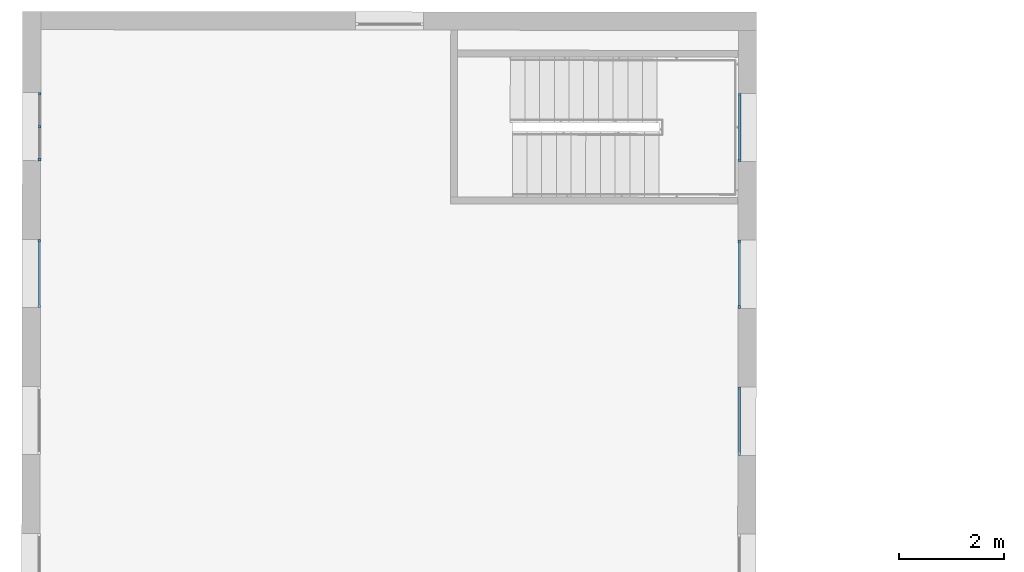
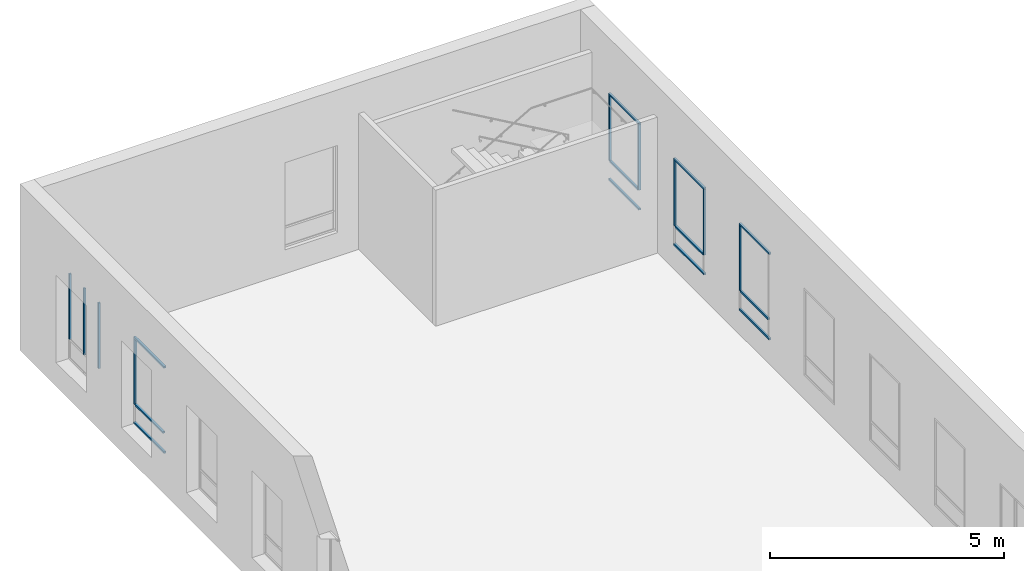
# One storey, part 6 of 35: 21 members, 5 elements without a shape of their own.
"""IFC2X3 building model written with IfcOpenShell, lengths in metres."""

from ifc_helpers import new_model, entity, si_unit, converted_unit, derived_unit, direction, frame, frame_2d, origin, origin_2d_with_axis, place, context, subcontext, project, spatial, rectangle, extrude, source, transform, mapped, material, type_object, type_shapes, element, aggregate, save


model = new_model("IFC2X3")

# Units and contexts
model_context = context("Model", 3, precision=1e-05, world=origin(), true_north=direction((6.123233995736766e-17, 1.0)))
body_context = subcontext(model_context, "Body", "Model", "MODEL_VIEW")
ifc_project = project(units=[si_unit("LENGTHUNIT", "METRE"), si_unit("AREAUNIT", "SQUARE_METRE"), converted_unit("PLANEANGLEUNIT", "DEGREE", entity("IfcPlaneAngleMeasure", 0.017453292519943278), si_unit("PLANEANGLEUNIT", "RADIAN"), dimensions=[0, 0, 0, 0, 0, 0, 0]), derived_unit("THERMALTRANSMITTANCEUNIT", [(si_unit("MASSUNIT", "GRAM", prefix="KILO"), 1), (si_unit("THERMODYNAMICTEMPERATUREUNIT", "KELVIN"), -1), (si_unit("TIMEUNIT", "SECOND"), -3)])], contexts=[model_context])

# Site, building, storey
site_placement = place(None, frame((1253.6752467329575, 2072.143113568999, 91.49999999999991), z_axis=(0.0, 0.0, 1.0), x_axis=(0.7237211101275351, 0.6900925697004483, 0.0)))
site = spatial("IfcSite", under=ifc_project, at=site_placement, Name="Surface", CompositionType="ELEMENT")
building_placement = place(site_placement, origin())
building = spatial("IfcBuilding", under=site, at=building_placement, CompositionType="ELEMENT")
storey_placement = place(building_placement, frame((0.0, 0.0, 3.549999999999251)))
storey = spatial("IfcBuildingStorey", under=building, at=storey_placement, Name="1-R+1", CompositionType="ELEMENT", Elevation=3.549999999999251)

# Curtain wall, members
curtain_wall_type = type_object("IfcCurtainWallType", Name="Mur-rideau:Menuiserie Ext 1F+1OB VERTIC", PredefinedType="NOTDEFINED")
curtain_wall_1_placement = place(storey_placement, frame((0.0, 0.0, -3.549999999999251)))
curtain_wall_1 = element("IfcCurtainWall", 1, at=curtain_wall_1_placement, inside=storey, type_object=curtain_wall_type, Name="Mur-rideau:Menuiserie Ext 1F+1OB VERTIC", ObjectType="Mur-rideau:Menuiserie Ext 1F+1OB VERTIC")
ifc_material_1 = material(Name="OMD_Aluminium Men Ext")
member_type_1 = type_object("IfcMemberType", Name="Meneau rectangulaire:50x50", PredefinedType="MULLION", material=ifc_material_1)
shared_shape_1 = source(origin(), body_context, "Body", "SweptSolid", [
    extrude(rectangle(XDim=0.05, YDim=0.049999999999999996, at=origin_2d_with_axis()), frame((-0.025, 0.0, -1.2996959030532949), z_axis=(0.0, 0.0, 1.0), x_axis=(-1.0, 0.0, 0.0)), (0.0, 0.0, 1.0), 1.2996959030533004),
])
type_shapes(member_type_1, [shared_shape_1])
member_1_placement = place(curtain_wall_1_placement, frame((163.4295500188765, 24.37951253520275, 6.4499999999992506), z_axis=(0.6911544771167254, 0.7227070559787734, 0.0), x_axis=(0.0, 0.0, 1.0)))
member_1 = element("IfcMember", 2, at=member_1_placement, type_object=member_type_1, material=ifc_material_1, Name="Meneau rectangulaire:50x50", ObjectType="Meneau rectangulaire:50x50", context=body_context, shape_type="MappedRepresentation", body=[
    mapped(shared_shape_1, transform((0.0, 0.0, 0.0), scale=1.0)),
])
member_type_2 = type_object("IfcMemberType", Name="Meneau rectangulaire:50x50", PredefinedType="MULLION", material=ifc_material_1)
shared_shape_2 = source(origin(), body_context, "Body", "SweptSolid", [
    extrude(rectangle(XDim=0.05, YDim=0.05, at=origin_2d_with_axis()), frame((-0.025, 0.0, -1.2996959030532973), z_axis=(0.0, 0.0, 1.0), x_axis=(-1.0, 0.0, 0.0)), (0.0, 0.0, 1.0), 1.2996959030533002),
])
type_shapes(member_type_2, [shared_shape_2])
member_2_placement = place(curtain_wall_1_placement, frame((162.53125937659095, 23.440213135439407, 4.169999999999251), z_axis=(-0.6911544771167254, -0.7227070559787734, 0.0), x_axis=(0.0, 0.0, -1.0)))
member_2 = element("IfcMember", 3, at=member_2_placement, type_object=member_type_2, material=ifc_material_1, Name="Meneau rectangulaire:50x50", ObjectType="Meneau rectangulaire:50x50", context=body_context, shape_type="MappedRepresentation", body=[
    mapped(shared_shape_2, transform((0.0, 0.0, 0.0), scale=1.0)),
])

# Curtain wall, member
curtain_wall_2_placement = place(storey_placement, frame((0.0, 0.0, -3.549999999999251)))
curtain_wall_2 = element("IfcCurtainWall", 4, at=curtain_wall_2_placement, inside=storey, type_object=curtain_wall_type, Name="Mur-rideau:Menuiserie Ext 1F+1OB VERTIC", ObjectType="Mur-rideau:Menuiserie Ext 1F+1OB VERTIC")
member_type_3 = type_object("IfcMemberType", Name="Meneau rectangulaire:50x50", PredefinedType="MULLION", material=ifc_material_1)
shared_shape_3 = source(origin(), body_context, "Body", "SweptSolid", [
    extrude(rectangle(XDim=0.05, YDim=0.049999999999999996, at=origin_2d_with_axis()), frame((-0.025, 0.0, -1.7099999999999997), z_axis=(0.0, 0.0, 1.0), x_axis=(-1.0, 0.0, 0.0)), (0.0, 0.0, 1.0), 1.7099999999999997),
])
type_shapes(member_type_3, [shared_shape_3])
member_3_placement = place(curtain_wall_2_placement, frame((164.46601405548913, 25.464249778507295, 6.399999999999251), z_axis=(0.0, 0.0, 1.0), x_axis=(-0.6911544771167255, -0.7227070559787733, 0.0)))
member_3 = element("IfcMember", 5, at=member_3_placement, type_object=member_type_3, material=ifc_material_1, Name="Meneau rectangulaire:50x50", ObjectType="Meneau rectangulaire:50x50", context=body_context, shape_type="MappedRepresentation", body=[
    mapped(shared_shape_3, transform((0.0, 0.0, 0.0), scale=1.0)),
])

# Member
member_type_4 = type_object("IfcMemberType", Name="Meneau rectangulaire:50x50", PredefinedType="MULLION", material=ifc_material_1)
shared_shape_4 = source(origin(), body_context, "Body", "SweptSolid", [
    extrude(rectangle(XDim=0.05, YDim=0.049999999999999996, at=origin_2d_with_axis()), frame((-0.025, 0.0, -1.7099999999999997), z_axis=(0.0, 0.0, 1.0), x_axis=(-1.0, 0.0, 0.0)), (0.0, 0.0, 1.0), 1.7099999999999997),
])
type_shapes(member_type_4, [shared_shape_4])
member_4_placement = place(curtain_wall_1_placement, frame((163.4295500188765, 24.37951253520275, 4.689999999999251), z_axis=(0.0, 0.0, -1.0), x_axis=(0.6911544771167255, 0.7227070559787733, 0.0)))
member_4 = element("IfcMember", 6, at=member_4_placement, type_object=member_type_4, material=ifc_material_1, Name="Meneau rectangulaire:50x50", ObjectType="Meneau rectangulaire:50x50", context=body_context, shape_type="MappedRepresentation", body=[
    mapped(shared_shape_4, transform((0.0, 0.0, 0.0), scale=1.0)),
])

member_5_placement = place(curtain_wall_2_placement, frame((165.36430469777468, 26.40354917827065, 4.689999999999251), z_axis=(0.0, 0.0, -1.0), x_axis=(0.6911544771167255, 0.7227070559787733, 0.0)))
member_5 = element("IfcMember", 7, at=member_5_placement, type_object=member_type_4, material=ifc_material_1, Name="Meneau rectangulaire:50x50", ObjectType="Meneau rectangulaire:50x50", context=body_context, shape_type="MappedRepresentation", body=[
    mapped(shared_shape_4, transform((0.0, 0.0, 0.0), scale=1.0)),
])

member_type_5 = type_object("IfcMemberType", Name="Meneau rectangulaire:50x50", PredefinedType="MULLION", material=ifc_material_1)
shared_shape_5 = source(origin(), body_context, "Body", "SweptSolid", [
    extrude(rectangle(XDim=0.05, YDim=0.05, at=frame_2d((0.0, -1.734723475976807e-18), x_axis=(1.0, 0.0))), frame((0.0, 0.0, -1.1996959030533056), z_axis=(0.0, 0.0, 1.0), x_axis=(-1.0, 0.0, 0.0)), (0.0, 0.0, 1.0), 1.1996959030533),
])
type_shapes(member_type_5, [shared_shape_5])
member_6_placement = place(curtain_wall_1_placement, frame((163.39499229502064, 24.3433771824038, 4.689999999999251), z_axis=(0.6911544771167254, 0.7227070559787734, 0.0), x_axis=(0.0, 0.0, 1.0)))
member_6 = element("IfcMember", 8, at=member_6_placement, type_object=member_type_5, material=ifc_material_1, Name="Meneau rectangulaire:50x50", ObjectType="Meneau rectangulaire:50x50", context=body_context, shape_type="MappedRepresentation", body=[
    mapped(shared_shape_5, transform((0.0, 0.0, 0.0), scale=1.0)),
])

aggregate(curtain_wall_1, [member_1, member_2, member_4, member_6])

ifc_material_2 = material(Name="OMD_Bois Men Int")
member_type_6 = type_object("IfcMemberType", Name="Meneau rectangulaire:50x50 Int", PredefinedType="MULLION", material=ifc_material_2)
shared_shape_6 = source(origin(), body_context, "Body", "SweptSolid", [
    extrude(rectangle(XDim=0.05, YDim=0.05, at=origin_2d_with_axis()), frame((0.0, 0.0, -1.7350000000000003), z_axis=(0.0, 0.0, 1.0), x_axis=(-1.0, 0.0, 0.0)), (0.0, 0.0, 1.0), 1.735),
])
type_shapes(member_type_6, [shared_shape_6])
member_7_placement = place(curtain_wall_2_placement, frame((164.91515937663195, 25.93389947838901, 4.66499999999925), z_axis=(0.0, 0.0, -1.0), x_axis=(0.6911544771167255, 0.7227070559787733, 0.0)))
member_7 = element("IfcMember", 9, at=member_7_placement, type_object=member_type_6, material=ifc_material_2, Name="Meneau rectangulaire:50x50 Int", ObjectType="Meneau rectangulaire:50x50 Int", context=body_context, shape_type="MappedRepresentation", body=[
    mapped(shared_shape_6, transform((0.0, 0.0, 0.0), scale=1.0)),
])

aggregate(curtain_wall_2, [member_3, member_5, member_7])

# Curtain wall, member
curtain_wall_3_placement = place(storey_placement, frame((0.0, 0.0, -3.549999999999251)))
curtain_wall_3 = element("IfcCurtainWall", 10, at=curtain_wall_3_placement, inside=storey, type_object=curtain_wall_type, Name="Mur-rideau:Menuiserie Ext 1F+1OB VERTIC", ObjectType="Mur-rideau:Menuiserie Ext 1F+1OB VERTIC")
member_type_7 = type_object("IfcMemberType", Name="Meneau rectangulaire:50x50", PredefinedType="MULLION", material=ifc_material_1)
shared_shape_7 = source(origin(), body_context, "Body", "SweptSolid", [
    extrude(rectangle(XDim=0.05, YDim=0.05, at=origin_2d_with_axis()), frame((-0.025, 0.0, -1.2996959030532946), z_axis=(0.0, 0.0, 1.0), x_axis=(-1.0, 0.0, 0.0)), (0.0, 0.0, 1.0), 1.299695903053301),
])
type_shapes(member_type_7, [shared_shape_7])
member_8_placement = place(curtain_wall_3_placement, frame((175.00590862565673, 17.187244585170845, 6.4499999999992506), z_axis=(0.6909838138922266, 0.7228702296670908, 0.0), x_axis=(0.0, 0.0, 1.0)))
member_8 = element("IfcMember", 11, at=member_8_placement, type_object=member_type_7, material=ifc_material_1, Name="Meneau rectangulaire:50x50", ObjectType="Meneau rectangulaire:50x50", context=body_context, shape_type="MappedRepresentation", body=[
    mapped(shared_shape_7, transform((0.0, 0.0, 0.0), scale=1.0)),
])

curtain_wall_4_placement = place(storey_placement, frame((0.0, 0.0, -3.549999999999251)))
curtain_wall_4 = element("IfcCurtainWall", 12, at=curtain_wall_4_placement, inside=storey, type_object=curtain_wall_type, Name="Mur-rideau:Menuiserie Ext 1F+1OB VERTIC", ObjectType="Mur-rideau:Menuiserie Ext 1F+1OB VERTIC")
member_9_placement = place(curtain_wall_4_placement, frame((173.0738925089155, 15.166072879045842, 6.4499999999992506), z_axis=(0.6909838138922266, 0.7228702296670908, 0.0), x_axis=(0.0, 0.0, 1.0)))
member_9 = element("IfcMember", 13, at=member_9_placement, type_object=member_type_7, material=ifc_material_1, Name="Meneau rectangulaire:50x50", ObjectType="Meneau rectangulaire:50x50", context=body_context, shape_type="MappedRepresentation", body=[
    mapped(shared_shape_7, transform((0.0, 0.0, 0.0), scale=1.0)),
])

curtain_wall_5_placement = place(storey_placement, frame((0.0, 0.0, -3.549999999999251)))
curtain_wall_5 = element("IfcCurtainWall", 14, at=curtain_wall_5_placement, inside=storey, type_object=curtain_wall_type, Name="Mur-rideau:Menuiserie Ext 1F+1OB VERTIC", ObjectType="Mur-rideau:Menuiserie Ext 1F+1OB VERTIC")
member_10_placement = place(curtain_wall_5_placement, frame((171.1391378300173, 13.142036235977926, 6.4499999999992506), z_axis=(0.6909838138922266, 0.7228702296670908, 0.0), x_axis=(0.0, 0.0, 1.0)))
member_10 = element("IfcMember", 15, at=member_10_placement, type_object=member_type_7, material=ifc_material_1, Name="Meneau rectangulaire:50x50", ObjectType="Meneau rectangulaire:50x50", context=body_context, shape_type="MappedRepresentation", body=[
    mapped(shared_shape_7, transform((0.0, 0.0, 0.0), scale=1.0)),
])

# Member
member_type_8 = type_object("IfcMemberType", Name="Meneau rectangulaire:50x50", PredefinedType="MULLION", material=ifc_material_1)
shared_shape_8 = source(origin(), body_context, "Body", "SweptSolid", [
    extrude(rectangle(XDim=0.05, YDim=0.05, at=origin_2d_with_axis()), frame((-0.025, 0.0, -1.299695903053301), z_axis=(0.0, 0.0, 1.0), x_axis=(-1.0, 0.0, 0.0)), (0.0, 0.0, 1.0), 1.299695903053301),
])
type_shapes(member_type_8, [shared_shape_8])
member_11_placement = place(curtain_wall_3_placement, frame((174.10783979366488, 16.24773310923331, 4.169999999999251), z_axis=(-0.6909838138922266, -0.7228702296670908, 0.0), x_axis=(0.0, 0.0, -1.0)))
member_11 = element("IfcMember", 16, at=member_11_placement, type_object=member_type_8, material=ifc_material_1, Name="Meneau rectangulaire:50x50", ObjectType="Meneau rectangulaire:50x50", context=body_context, shape_type="MappedRepresentation", body=[
    mapped(shared_shape_8, transform((0.0, 0.0, 0.0), scale=1.0)),
])

member_12_placement = place(curtain_wall_4_placement, frame((172.17582367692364, 14.226561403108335, 4.169999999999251), z_axis=(-0.6909838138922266, -0.7228702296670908, 0.0), x_axis=(0.0, 0.0, -1.0)))
member_12 = element("IfcMember", 17, at=member_12_placement, type_object=member_type_8, material=ifc_material_1, Name="Meneau rectangulaire:50x50", ObjectType="Meneau rectangulaire:50x50", context=body_context, shape_type="MappedRepresentation", body=[
    mapped(shared_shape_8, transform((0.0, 0.0, 0.0), scale=1.0)),
])

member_13_placement = place(curtain_wall_5_placement, frame((170.2410689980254, 12.202524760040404, 4.169999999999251), z_axis=(-0.6909838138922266, -0.7228702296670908, 0.0), x_axis=(0.0, 0.0, -1.0)))
member_13 = element("IfcMember", 18, at=member_13_placement, type_object=member_type_8, material=ifc_material_1, Name="Meneau rectangulaire:50x50", ObjectType="Meneau rectangulaire:50x50", context=body_context, shape_type="MappedRepresentation", body=[
    mapped(shared_shape_8, transform((0.0, 0.0, 0.0), scale=1.0)),
])

member_type_9 = type_object("IfcMemberType", Name="Meneau rectangulaire:50x50", PredefinedType="MULLION", material=ifc_material_1)
shared_shape_9 = source(origin(), body_context, "Body", "SweptSolid", [
    extrude(rectangle(XDim=0.05, YDim=0.05000000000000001, at=origin_2d_with_axis()), frame((-0.025, 0.0, -1.7099999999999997), z_axis=(0.0, 0.0, 1.0), x_axis=(-1.0, 0.0, 0.0)), (0.0, 0.0, 1.0), 1.7099999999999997),
])
type_shapes(member_type_9, [shared_shape_9])
member_14_placement = place(curtain_wall_3_placement, frame((174.1078397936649, 16.247733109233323, 6.399999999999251), z_axis=(0.0, 0.0, 1.0), x_axis=(-0.6909838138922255, -0.722870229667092, 0.0)))
member_14 = element("IfcMember", 19, at=member_14_placement, type_object=member_type_9, material=ifc_material_1, Name="Meneau rectangulaire:50x50", ObjectType="Meneau rectangulaire:50x50", context=body_context, shape_type="MappedRepresentation", body=[
    mapped(shared_shape_9, transform((0.0, 0.0, 0.0), scale=1.0)),
])

member_15_placement = place(curtain_wall_4_placement, frame((172.17582367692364, 14.22656140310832, 6.399999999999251), z_axis=(0.0, 0.0, 1.0), x_axis=(-0.6909838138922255, -0.722870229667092, 0.0)))
member_15 = element("IfcMember", 20, at=member_15_placement, type_object=member_type_9, material=ifc_material_1, Name="Meneau rectangulaire:50x50", ObjectType="Meneau rectangulaire:50x50", context=body_context, shape_type="MappedRepresentation", body=[
    mapped(shared_shape_9, transform((0.0, 0.0, 0.0), scale=1.0)),
])

member_type_10 = type_object("IfcMemberType", Name="Meneau rectangulaire:50x50", PredefinedType="MULLION", material=ifc_material_1)
shared_shape_10 = source(origin(), body_context, "Body", "SweptSolid", [
    extrude(rectangle(XDim=0.05, YDim=0.049999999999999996, at=origin_2d_with_axis()), frame((-0.025, 0.0, -1.7099999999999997), z_axis=(0.0, 0.0, 1.0), x_axis=(-1.0, 0.0, 0.0)), (0.0, 0.0, 1.0), 1.7099999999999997),
])
type_shapes(member_type_10, [shared_shape_10])
member_16_placement = place(curtain_wall_3_placement, frame((175.0059086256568, 17.187244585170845, 4.689999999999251), z_axis=(0.0, 0.0, -1.0), x_axis=(0.6909838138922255, 0.722870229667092, 0.0)))
member_16 = element("IfcMember", 21, at=member_16_placement, type_object=member_type_10, material=ifc_material_1, Name="Meneau rectangulaire:50x50", ObjectType="Meneau rectangulaire:50x50", context=body_context, shape_type="MappedRepresentation", body=[
    mapped(shared_shape_10, transform((0.0, 0.0, 0.0), scale=1.0)),
])

member_17_placement = place(curtain_wall_4_placement, frame((173.07389250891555, 15.166072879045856, 4.689999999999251), z_axis=(0.0, 0.0, -1.0), x_axis=(0.6909838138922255, 0.722870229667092, 0.0)))
member_17 = element("IfcMember", 22, at=member_17_placement, type_object=member_type_10, material=ifc_material_1, Name="Meneau rectangulaire:50x50", ObjectType="Meneau rectangulaire:50x50", context=body_context, shape_type="MappedRepresentation", body=[
    mapped(shared_shape_10, transform((0.0, 0.0, 0.0), scale=1.0)),
])

member_18_placement = place(curtain_wall_5_placement, frame((171.13913783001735, 13.14203623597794, 4.689999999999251), z_axis=(0.0, 0.0, -1.0), x_axis=(0.6909838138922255, 0.722870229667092, 0.0)))
member_18 = element("IfcMember", 23, at=member_18_placement, type_object=member_type_10, material=ifc_material_1, Name="Meneau rectangulaire:50x50", ObjectType="Meneau rectangulaire:50x50", context=body_context, shape_type="MappedRepresentation", body=[
    mapped(shared_shape_10, transform((0.0, 0.0, 0.0), scale=1.0)),
])

member_type_11 = type_object("IfcMemberType", Name="Meneau rectangulaire:50x50", PredefinedType="MULLION", material=ifc_material_1)
shared_shape_11 = source(origin(), body_context, "Body", "SweptSolid", [
    extrude(rectangle(XDim=0.05, YDim=0.05, at=origin_2d_with_axis()), frame((0.0, 0.0, -1.1996959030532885), z_axis=(0.0, 0.0, 1.0), x_axis=(-1.0, 0.0, 0.0)), (0.0, 0.0, 1.0), 1.199695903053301),
])
type_shapes(member_type_11, [shared_shape_11])
member_19_placement = place(curtain_wall_3_placement, frame((174.97135943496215, 17.1511010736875, 4.689999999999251), z_axis=(0.6909838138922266, 0.7228702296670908, 0.0), x_axis=(0.0, 0.0, 1.0)))
member_19 = element("IfcMember", 24, at=member_19_placement, type_object=member_type_11, material=ifc_material_1, Name="Meneau rectangulaire:50x50", ObjectType="Meneau rectangulaire:50x50", context=body_context, shape_type="MappedRepresentation", body=[
    mapped(shared_shape_11, transform((0.0, 0.0, 0.0), scale=1.0)),
])

aggregate(curtain_wall_3, [member_8, member_11, member_14, member_16, member_19])

member_20_placement = place(curtain_wall_4_placement, frame((173.03934331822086, 15.129929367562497, 4.689999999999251), z_axis=(0.6909838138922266, 0.7228702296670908, 0.0), x_axis=(0.0, 0.0, 1.0)))
member_20 = element("IfcMember", 25, at=member_20_placement, type_object=member_type_11, material=ifc_material_1, Name="Meneau rectangulaire:50x50", ObjectType="Meneau rectangulaire:50x50", context=body_context, shape_type="MappedRepresentation", body=[
    mapped(shared_shape_11, transform((0.0, 0.0, 0.0), scale=1.0)),
])

aggregate(curtain_wall_4, [member_9, member_12, member_15, member_17, member_20])

member_21_placement = place(curtain_wall_5_placement, frame((171.10458863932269, 13.105892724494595, 4.689999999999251), z_axis=(0.6909838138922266, 0.7228702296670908, 0.0), x_axis=(0.0, 0.0, 1.0)))
member_21 = element("IfcMember", 26, at=member_21_placement, type_object=member_type_11, material=ifc_material_1, Name="Meneau rectangulaire:50x50", ObjectType="Meneau rectangulaire:50x50", context=body_context, shape_type="MappedRepresentation", body=[
    mapped(shared_shape_11, transform((0.0, 0.0, 0.0), scale=1.0)),
])

aggregate(curtain_wall_5, [member_10, member_13, member_18, member_21])

save(model, "model.ifc")
